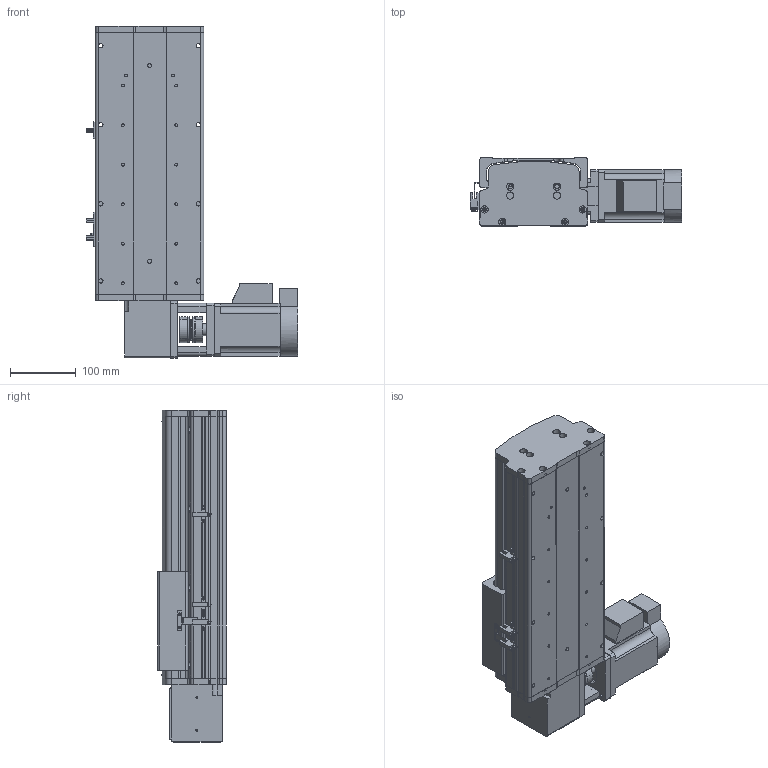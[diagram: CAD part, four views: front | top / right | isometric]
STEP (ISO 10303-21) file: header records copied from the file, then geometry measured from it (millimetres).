
FILE_DESCRIPTION (( 'STEP AP214' ), '1' );
FILE_NAME ('KSD165B-S150-MRT-CM .STEP', '2017-08-07T09:16:23', ( '微软用户' ), ( '微软中国' ), 'SwSTEP 2.0', 'SolidWorks 2014', '' );
FILE_SCHEMA (( 'AUTOMOTIVE_DESIGN' ));
Length unit declared in the file: millimetre
Products named in the file (16): KSD165耀郪-ヶ傷啣1-肮祭湍; KSD165模组-后端板1-同步带; 130宽马达安装板1-带电机座750W（1）; KSD165模组-同步带滑动座-最新版; KSD165B-S150-MRT-CM ; KSD165模组-同步带防尘盖1-150行程-最新版; KSD165模组同步带底板-150行程-最新; 拸秶雄ん750W侜督萇儂; 165宽安装板同步带带电机座750W; 165宽马达安装板同步带右; C39ㄜ1419WP; U倰嫖萇假蚾璃; U倰嫖萇EEㄜSX672; 覜茼え68遵圉猾敕; KSD165模组-同步带-防撞垫2; KSD165模组同步带-防撞垫1
Assembly tree (19 placements, depth 2):
  KSD165B-S150-MRT-CM 
    KSD165模组-同步带滑动座-最新版
    130宽马达安装板1-带电机座750W（1）
    KSD165模组-后端板1-同步带
    KSD165耀郪-ヶ傷啣1-肮祭湍
    KSD165模组同步带-防撞垫1
    KSD165模组-同步带-防撞垫2
    覜茼え68遵圉猾敕
    U倰嫖萇EEㄜSX672  x3
    U倰嫖萇假蚾璃  x3
    C39ㄜ1419WP
    165宽马达安装板同步带右
    165宽安装板同步带带电机座750W
    拸秶雄ん750W侜督萇儂
    KSD165模组同步带底板-150行程-最新
    KSD165模组-同步带防尘盖1-150行程-最新版
Bounding box: 321.2 x 104 x 504 mm (x, y, z)
Volume: 4049264.5 mm3; surface area: 878025.3 mm2
Topology: 20 solids, 20 shells, 1388 faces, 3840 edges, 2481 vertices
Faces by surface type: cylinder 727, plane 567, cone 94
Entity records: 43103 total; most frequent: CARTESIAN_POINT 9053, DIRECTION 6746, ORIENTED_EDGE 6332, EDGE_CURVE 3166, AXIS2_PLACEMENT_3D 2542, VERTEX_POINT 2073, LINE 1662, VECTOR 1662
